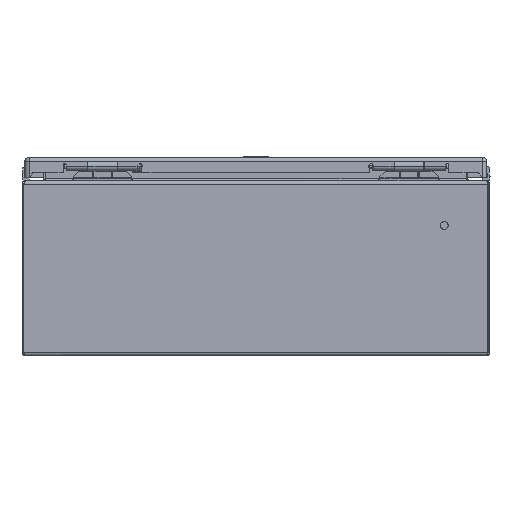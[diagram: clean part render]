
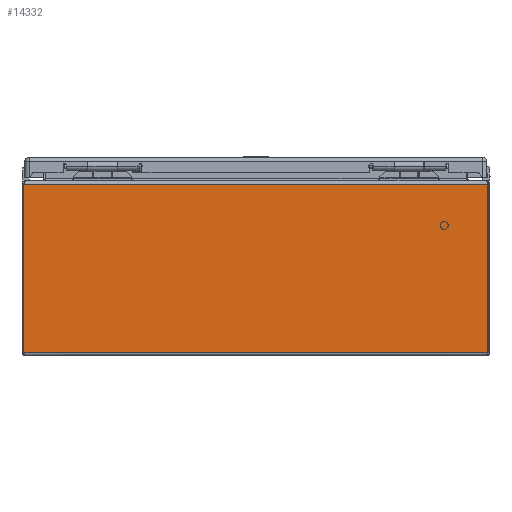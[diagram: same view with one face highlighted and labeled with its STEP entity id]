
A CAD part, left-side view. The second image highlights one B-rep face of the part: STEP entity #14332.
In plain terms, the highlighted planar face has unit normal (-1, 0, 0).
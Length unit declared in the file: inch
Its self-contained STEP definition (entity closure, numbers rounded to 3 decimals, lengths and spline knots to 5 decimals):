
#2353 = ORIENTED_EDGE ( 'NONE', *, *, #43295, .T. ) ;
#2354 = ORIENTED_EDGE ( 'NONE', *, *, #43310, .F. ) ;
#2355 = ORIENTED_EDGE ( 'NONE', *, *, #43252, .T. ) ;
#2356 = ORIENTED_EDGE ( 'NONE', *, *, #43313, .T. ) ;
#5085 = CARTESIAN_POINT ( 'NONE',  ( -8., 7.94693, 0.097 ) ) ;
#5114 = CARTESIAN_POINT ( 'NONE',  ( -8., -7.94693, 5.859 ) ) ;
#5147 = CARTESIAN_POINT ( 'NONE',  ( -8., 7.94693, 5.859 ) ) ;
#5164 = CARTESIAN_POINT ( 'NONE',  ( -8., -7.94693, 0.097 ) ) ;
#6796 = DIRECTION ( 'NONE',  ( 0., 0., -1. ) ) ;
#6809 = CARTESIAN_POINT ( 'NONE',  ( -8., -7.94693, 5.859 ) ) ;
#6816 = CARTESIAN_POINT ( 'NONE',  ( -8., 7.94693, 5.859 ) ) ;
#6818 = DIRECTION ( 'NONE',  ( 0., 0., 1. ) ) ;
#6866 = DIRECTION ( 'NONE',  ( 0., -1., 0. ) ) ;
#6875 = CARTESIAN_POINT ( 'NONE',  ( -8., 88., 0.097 ) ) ;
#6877 = DIRECTION ( 'NONE',  ( 0., -1., 0. ) ) ;
#6879 = CARTESIAN_POINT ( 'NONE',  ( -8., 88., 5.859 ) ) ;
#14332 = ADVANCED_FACE ( 'NONE', ( #18855 ), #28767, .T. ) ;
#18855 = FACE_OUTER_BOUND ( 'NONE', #46015, .T. ) ;
#23163 = AXIS2_PLACEMENT_3D ( 'NONE', #28820, #28741, #28738 ) ;
#26616 = VECTOR ( 'NONE', #6796, 39.37008 ) ;
#26632 = LINE ( 'NONE', #6816, #26616 ) ;
#26741 = LINE ( 'NONE', #6809, #26756 ) ;
#26756 = VECTOR ( 'NONE', #6818, 39.37008 ) ;
#26789 = LINE ( 'NONE', #6879, #26799 ) ;
#26797 = LINE ( 'NONE', #6875, #26812 ) ;
#26799 = VECTOR ( 'NONE', #6877, 39.37008 ) ;
#26812 = VECTOR ( 'NONE', #6866, 39.37008 ) ;
#28738 = DIRECTION ( 'NONE',  ( 0., 0., -1. ) ) ;
#28741 = DIRECTION ( 'NONE',  ( -1., 0., 0. ) ) ;
#28767 = PLANE ( 'NONE',  #23163 ) ;
#28820 = CARTESIAN_POINT ( 'NONE',  ( -8., 88., 5.859 ) ) ;
#43252 = EDGE_CURVE ( 'NONE', #43973, #44035, #26632, .T. ) ;
#43295 = EDGE_CURVE ( 'NONE', #43956, #44006, #26741, .T. ) ;
#43310 = EDGE_CURVE ( 'NONE', #43973, #44006, #26789, .T. ) ;
#43313 = EDGE_CURVE ( 'NONE', #44035, #43956, #26797, .T. ) ;
#43956 = VERTEX_POINT ( 'NONE', #5164 ) ;
#43973 = VERTEX_POINT ( 'NONE', #5147 ) ;
#44006 = VERTEX_POINT ( 'NONE', #5114 ) ;
#44035 = VERTEX_POINT ( 'NONE', #5085 ) ;
#46015 = EDGE_LOOP ( 'NONE', ( #2353, #2354, #2355, #2356 ) ) ;
